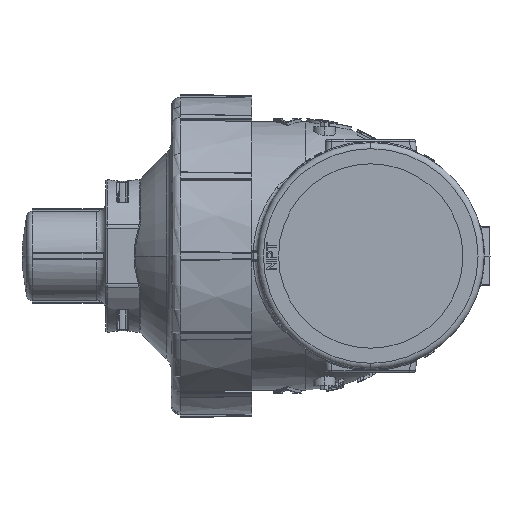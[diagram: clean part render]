
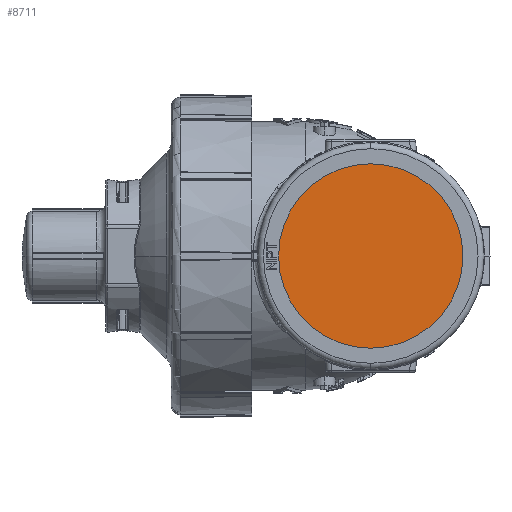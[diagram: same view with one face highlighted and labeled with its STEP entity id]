
A CAD part, left-side view. The second image highlights one B-rep face of the part: STEP entity #8711.
In plain terms, the highlighted planar face has unit normal (-1, 0, 0).
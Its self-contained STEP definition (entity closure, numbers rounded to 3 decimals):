
#5910 = VERTEX_POINT ( 'NONE', #37264 ) ;
#5940 = VERTEX_POINT ( 'NONE', #37294 ) ;
#8711 = ADVANCED_FACE ( 'NONE', ( #47105 ), #72618, .F. ) ;
#9792 = AXIS2_PLACEMENT_3D ( 'NONE', #32693, #32694, #32695 ) ;
#10108 = AXIS2_PLACEMENT_3D ( 'NONE', #35609, #35610, #35611 ) ;
#10272 = EDGE_LOOP ( 'NONE', ( #85871, #85879 ) ) ;
#16516 = EDGE_CURVE ( 'NONE', #5940, #5910, #29060, .T. ) ;
#17238 = EDGE_CURVE ( 'NONE', #5910, #5940, #29633, .T. ) ;
#29060 = CIRCLE ( 'NONE', #9792, 30.925 ) ;
#29633 = CIRCLE ( 'NONE', #10108, 30.925 ) ;
#32693 = CARTESIAN_POINT ( 'NONE',  ( -67.501, 0., 0. ) ) ;
#32694 = DIRECTION ( 'NONE',  ( 1., 0., 0. ) ) ;
#32695 = DIRECTION ( 'NONE',  ( 0., 0., -1. ) ) ;
#35609 = CARTESIAN_POINT ( 'NONE',  ( -67.501, 0., 0. ) ) ;
#35610 = DIRECTION ( 'NONE',  ( 1., 0., 0. ) ) ;
#35611 = DIRECTION ( 'NONE',  ( 0., 0., -1. ) ) ;
#37264 = CARTESIAN_POINT ( 'NONE',  ( -67.501, 0., -30.925 ) ) ;
#37294 = CARTESIAN_POINT ( 'NONE',  ( -67.501, 0., 30.925 ) ) ;
#47105 = FACE_OUTER_BOUND ( 'NONE', #10272, .T. ) ;
#72611 = CARTESIAN_POINT ( 'NONE',  ( -67.501, 0., 0. ) ) ;
#72618 = PLANE ( 'NONE',  #76262 ) ;
#72620 = DIRECTION ( 'NONE',  ( 1., 0., 0. ) ) ;
#72621 = DIRECTION ( 'NONE',  ( 0., 0., -1. ) ) ;
#76262 = AXIS2_PLACEMENT_3D ( 'NONE', #72611, #72620, #72621 ) ;
#85871 = ORIENTED_EDGE ( 'NONE', *, *, #17238, .F. ) ;
#85879 = ORIENTED_EDGE ( 'NONE', *, *, #16516, .F. ) ;
